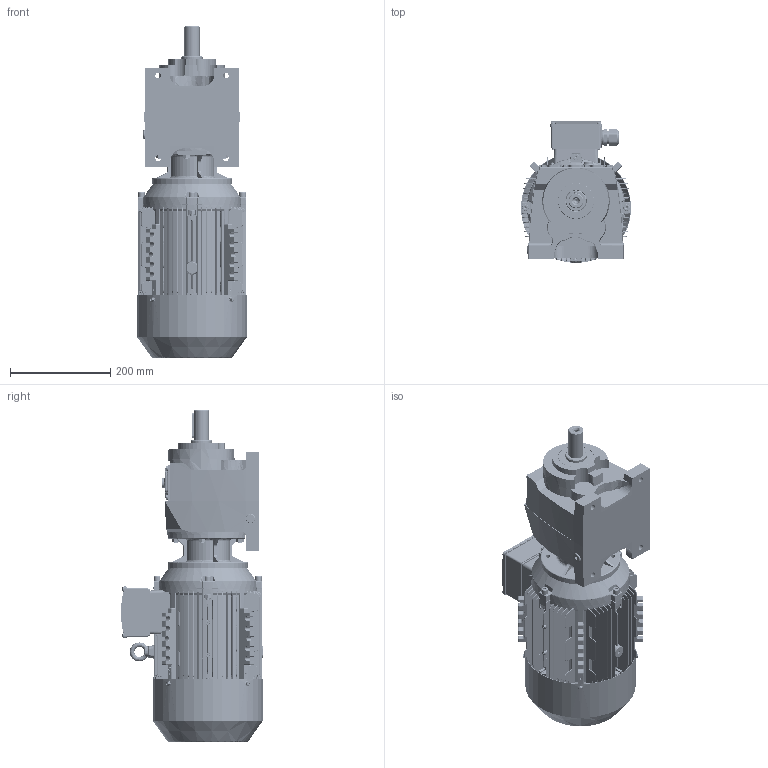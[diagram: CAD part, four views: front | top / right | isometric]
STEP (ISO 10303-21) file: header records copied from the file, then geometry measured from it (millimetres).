
FILE_DESCRIPTION (( 'STEP AP203' ), '1' );
FILE_NAME ('MV_203_0_MX112.STEP', '2018-11-29T07:55:53', ( '' ), ( '' ), 'SwSTEP 2.0', 'SolidWorks 2012', '' );
FILE_SCHEMA (( 'CONFIG_CONTROL_DESIGN' ));
Length unit declared in the file: millimetre
Products named in the file (26): circlips for shaft--type a large gb_GB_CONNECTING_PIECE_RING_RRA 28_3; spring lock washers--normal type gb_GB_FASTENER_WASHER_SW 8_3; hexagon nuts grade c gb_GB_FASTENER_NUT_SNC1 M8-N_3; DMX-IE3 112 fan_3; DMX-IE3 oil seal_3; deep groove ball bearings gb_Rolling bearings 6206 GB 276-94_3; DMX-IE3 112M4  oil seal_3; DMX-IE3 112M4 casing_3; deep groove ball bearings gb_Rolling bearings 6306 GB 276-94_3; DMX-IE3 112 shaft_3; DMX-IE3 112 shield_3; 23100B14_Varsayìlan; ML13A_Varsayìlan; M203_Varsayìlan; DMX-IE3 112 Flange; MX3-112_B14; MV_203_0_MX112; hexagon flange head tapping screws gb_GB_SQUARE_AND_HEXAGON_TYPE137 ST4.8X9.5 C-N_3; eyebolts gb_GB_FASTENER_SCREWS_FRS M8-N_3; DMX-IE3 112  cable glands_3; cross recessed pan head screws gb_GB_CROSS_SCREWS_TYPE1 M5X12-12  H type-N_3; plain parallel keys_GB_CONNECTING_PIECE_KEYS_CSK 8X50_3; DMX-IE3 112terminal box cover_3; DMX-IE3 112terminal box base_3; DMX-IE3 112   fan cover_3; hexagon socket head cap screws gb_GB_FASTENER_SCREWS_HSHCS M8X40-N_3
Assembly tree (54 placements, depth 3):
  MV_203_0_MX112
    M203_Varsayìlan
    23100B14_Varsayìlan
    ML13A_Varsayìlan
    MX3-112_B14
      DMX-IE3 112M4 casing_3
      DMX-IE3 112 shaft_3
      DMX-IE3 112 shield_3
      deep groove ball bearings gb_Rolling bearings 6306 GB 276-94_3
      deep groove ball bearings gb_Rolling bearings 6206 GB 276-94_3
      DMX-IE3 112M4  oil seal_3
      DMX-IE3 oil seal_3
      DMX-IE3 112 fan_3
      circlips for shaft--type a large gb_GB_CONNECTING_PIECE_RING_RRA 28_3
      spring lock washers--normal type gb_GB_FASTENER_WASHER_SW 8_3  x8
      hexagon nuts grade c gb_GB_FASTENER_NUT_SNC1 M8-N_3  x8
      hexagon socket head cap screws gb_GB_FASTENER_SCREWS_HSHCS M8X40-N_3  x8
      DMX-IE3 112   fan cover_3
      plain parallel keys_GB_CONNECTING_PIECE_KEYS_CSK 8X50_3
      DMX-IE3 112terminal box base_3
      DMX-IE3 112terminal box cover_3
      cross recessed pan head screws gb_GB_CROSS_SCREWS_TYPE1 M5X12-12  H type-N_3  x4
      eyebolts gb_GB_FASTENER_SCREWS_FRS M8-N_3
      hexagon flange head tapping screws gb_GB_SQUARE_AND_HEXAGON_TYPE137 ST4.8X9.5 C-N_3  x5
      DMX-IE3 112  cable glands_3  x2
      DMX-IE3 112 Flange
Bounding box: 219.16 x 282.18 x 662.75 mm (x, y, z)
Volume: 6813390.6 mm3; surface area: 1640875.7 mm2
Topology: 53 solids, 59 shells, 7079 faces, 18297 edges, 11188 vertices
Faces by surface type: plane 2511, cylinder 1925, bspline 1698, cone 724, torus 111, sphere 110
Entity records: 273487 total; most frequent: CARTESIAN_POINT 124536, ORIENTED_EDGE 33140, DIRECTION 26891, EDGE_CURVE 16573, VERTEX_POINT 10235, AXIS2_PLACEMENT_3D 9780, LINE 7331, VECTOR 7331
